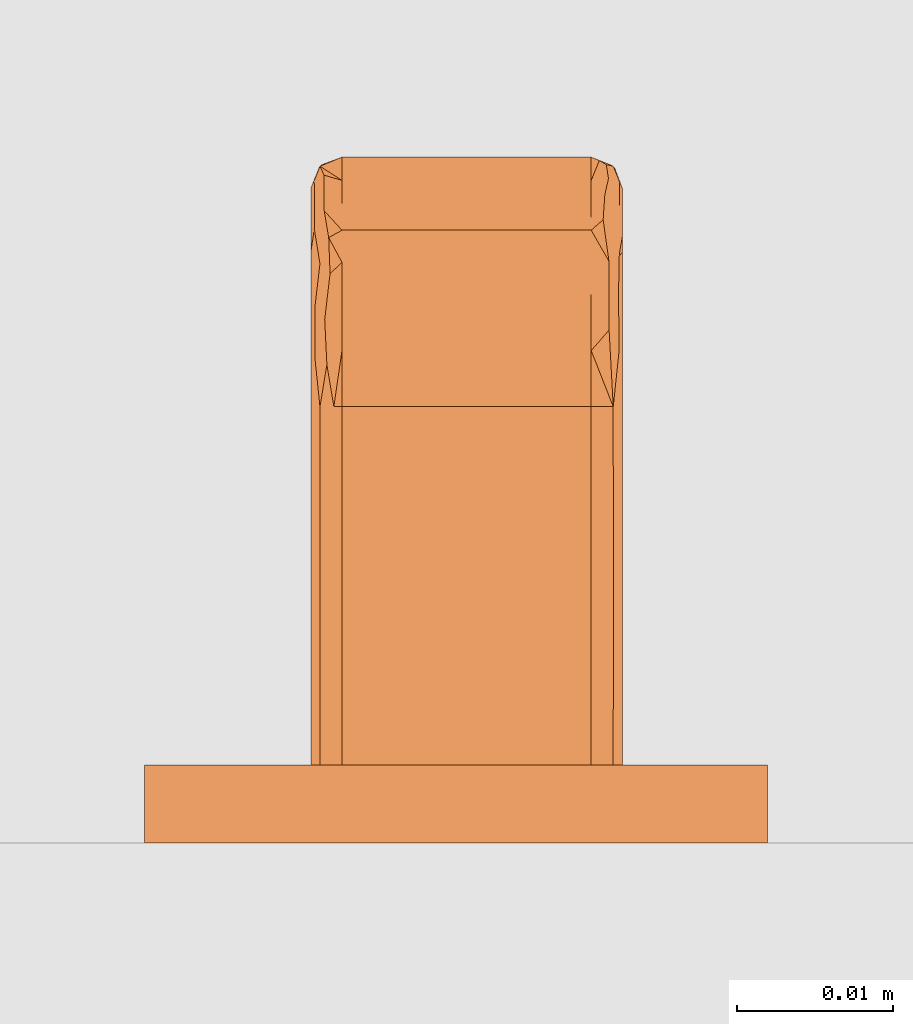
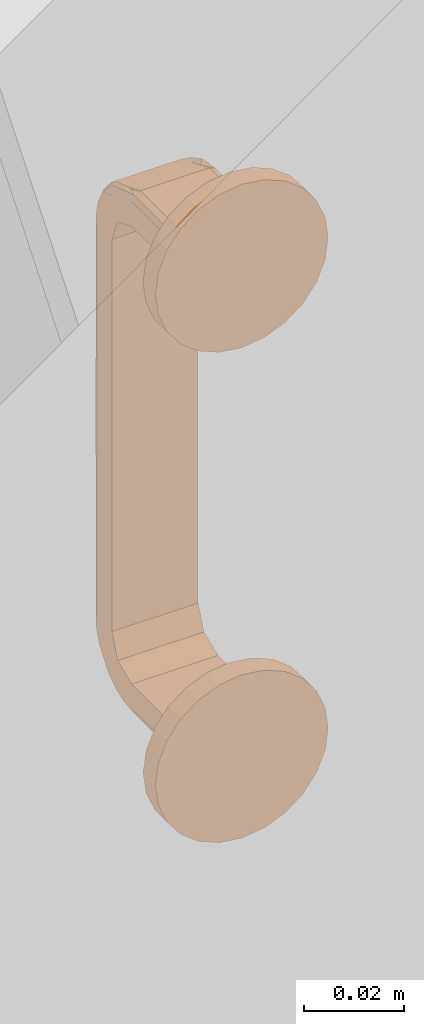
# One storey, part 43 of 67: 1 proxy.
"""IFC4 building model written with IfcOpenShell, lengths in millimetres."""

import ifcopenshell
import ifcopenshell.guid

model = None  # the IFC model being written
_history = None  # IfcOwnerHistory: only IFC2X3 demands one
_inside = {}  # id of a spatial element -> (the spatial element, [elements in it])
_under = {}  # id of a project, library or spatial element -> (it, [spatial elements below it])
_declared = {}  # id of a project -> (the project, [libraries it declares])
_typed = {}  # id of a type object -> (the type object, [elements of that type])
_made_of = {}  # id of a material, layer set ... -> (it, [elements and type objects made of it])


def new_model(schema):
    """Start an empty IFC model of exactly this schema.

    Asked for "IFC4X3", IfcOpenShell would pick the latest addendum, in which some entities
    have other attributes; the version numbers below select the first issue.
    IFC2X3 requires an IfcOwnerHistory on every rooted entity: one is made here for all.
    """
    global model, _history
    if schema == "IFC4X3":
        model = ifcopenshell.file(schema_version=(4, 3, 0, 0))
    else:
        model = ifcopenshell.file(schema=schema)
    _inside.clear()
    _under.clear()
    _declared.clear()
    _typed.clear()
    _made_of.clear()
    _history = None
    if model.schema == "IFC2X3":
        org = make("IfcOrganization", Name="unknown")
        user = make(
            "IfcPersonAndOrganization",
            ThePerson=make("IfcPerson", FamilyName="unknown"),
            TheOrganization=org,
        )
        app = make(
            "IfcApplication",
            ApplicationDeveloper=org,
            Version="unknown",
            ApplicationFullName="unknown",
            ApplicationIdentifier="unknown",
        )
        _history = make(
            "IfcOwnerHistory",
            OwningUser=user,
            OwningApplication=app,
            ChangeAction="ADDED",
            CreationDate=0,
        )
    return model


def make(cls, **values):
    """One entity of the class cls with the attributes given. An attribute that is None is left unset."""
    return model.create_entity(
        cls, **{name: value for name, value in values.items() if value is not None}
    )


def entity(cls, *values):
    """Any entity or typed value of the class cls, its attributes in the order of the schema. None: left unset."""
    e = model.create_entity(cls)
    for i, value in enumerate(values):
        if value is not None:
            e[i] = value
    return e


def rooted(cls, **values):
    """An entity with a GlobalId (a new one), such as an element, a storey or a relation."""
    return make(cls, GlobalId=ifcopenshell.guid.new(), OwnerHistory=_history, **values)


def si_unit(unit_type, name, prefix=None):
    """IfcSIUnit, for example si_unit("LENGTHUNIT", "METRE", prefix="MILLI")."""
    return make("IfcSIUnit", UnitType=unit_type, Prefix=prefix, Name=name)


def converted_unit(unit_type, name, factor, base, dimensions=None, offset=None):
    """IfcConversionBasedUnit, such as the inch: factor (a typed value) times the base unit."""
    return make(
        "IfcConversionBasedUnit"
        if offset is None
        else "IfcConversionBasedUnitWithOffset",
        ConversionOffset=offset,
        Dimensions=None
        if dimensions is None
        else entity("IfcDimensionalExponents", *dimensions),
        UnitType=unit_type,
        Name=name,
        ConversionFactor=make(
            "IfcMeasureWithUnit", ValueComponent=factor, UnitComponent=base
        ),
    )


def assignment(units):
    """IfcUnitAssignment: the units of a project."""
    return None if units is None else make("IfcUnitAssignment", Units=units)


def point(xyz):
    """IfcCartesianPoint."""
    return None if xyz is None else make("IfcCartesianPoint", Coordinates=xyz)


def direction(xyz):
    """IfcDirection."""
    return None if xyz is None else make("IfcDirection", DirectionRatios=xyz)


def frame(location, z_axis=None, x_axis=None):
    """IfcAxis2Placement3D, a coordinate frame: its origin and axes. An axis left out is left unset."""
    return make(
        "IfcAxis2Placement3D",
        Location=point(location),
        Axis=direction(z_axis),
        RefDirection=direction(x_axis),
    )


def origin():
    """The frame at (0, 0, 0) with its axes left unset."""
    return frame((0.0, 0.0, 0.0))


def place(relative_to, where):
    """IfcLocalPlacement: puts the frame where relative to a parent placement (None: the world)."""
    return make(
        "IfcLocalPlacement", PlacementRelTo=relative_to, RelativePlacement=where
    )


def context(
    kind, dimensions, precision=None, world=None, true_north=None, identifier=None
):
    """IfcGeometricRepresentationContext, for example the 3D "Model" context."""
    return make(
        "IfcGeometricRepresentationContext",
        ContextIdentifier=identifier,
        ContextType=kind,
        CoordinateSpaceDimension=dimensions,
        Precision=precision,
        WorldCoordinateSystem=world,
        TrueNorth=true_north,
    )


def subcontext(parent, identifier, kind, view, scale=None):
    """IfcGeometricRepresentationSubContext, for example "Body" below "Model"."""
    return make(
        "IfcGeometricRepresentationSubContext",
        ContextIdentifier=identifier,
        ContextType=kind,
        ParentContext=parent,
        TargetScale=scale,
        TargetView=view,
    )


def project(units=None, contexts=None):
    """IfcProject with its units and contexts."""
    return rooted(
        "IfcProject",
        Name="project",
        RepresentationContexts=contexts,
        UnitsInContext=assignment(units),
    )


def spatial(cls, under=None, at=None, **own):
    """A site, building, storey or space (cls), placed at a placement, below another one or the project."""
    s = rooted(cls, ObjectPlacement=at, **own)
    if under is not None:
        _under.setdefault(under.id(), (under, []))[1].append(s)
    return s


def point_list(points):
    """IfcCartesianPointList2D or 3D."""
    cls = (
        "IfcCartesianPointList2D" if len(points[0]) == 2 else "IfcCartesianPointList3D"
    )
    return make(cls, CoordList=points)


def polygons(points, faces, closed=None, point_numbers=None):
    """IfcPolygonalFaceSet: a face is its outer loop, then its inner loops; points numbered from 1."""
    made = []
    for loops in faces:
        if len(loops) == 1:
            made.append(make("IfcIndexedPolygonalFace", CoordIndex=loops[0]))
        else:
            made.append(
                make(
                    "IfcIndexedPolygonalFaceWithVoids",
                    CoordIndex=loops[0],
                    InnerCoordIndices=loops[1:],
                )
            )
    return make(
        "IfcPolygonalFaceSet",
        Coordinates=point_list(points),
        Closed=closed,
        Faces=made,
        PnIndex=point_numbers,
    )


def shape(context_of_items, identifier, shape_type, items):
    """IfcShapeRepresentation: the items that make up one representation, for example the "Body"."""
    return make(
        "IfcShapeRepresentation",
        ContextOfItems=context_of_items,
        RepresentationIdentifier=identifier,
        RepresentationType=shape_type,
        Items=items,
    )


def source(mapping_origin, context_of_items, identifier, shape_type, items):
    """IfcRepresentationMap: a shape defined once, which mapped items show again and again."""
    return make(
        "IfcRepresentationMap",
        MappingOrigin=mapping_origin,
        MappedRepresentation=shape(context_of_items, identifier, shape_type, items),
    )


def transform(
    local_origin,
    x_axis=None,
    y_axis=None,
    z_axis=None,
    scale=None,
    scale2=None,
    scale3=None,
    uniform=True,
):
    """IfcCartesianTransformationOperator3D, or its non-uniform kind. x_axis, y_axis, z_axis: its Axis1, 2, 3."""
    if uniform:
        return make(
            "IfcCartesianTransformationOperator3D",
            Axis1=direction(x_axis),
            Axis2=direction(y_axis),
            LocalOrigin=point(local_origin),
            Scale=scale,
            Axis3=direction(z_axis),
        )
    return make(
        "IfcCartesianTransformationOperator3DnonUniform",
        Axis1=direction(x_axis),
        Axis2=direction(y_axis),
        LocalOrigin=point(local_origin),
        Scale=scale,
        Axis3=direction(z_axis),
        Scale2=scale2,
        Scale3=scale3,
    )


def mapped(mapping_source, mapping_target):
    """IfcMappedItem: shows the shape of a source again, moved by a transform."""
    return make(
        "IfcMappedItem", MappingSource=mapping_source, MappingTarget=mapping_target
    )


def material(Name=None, Category=None):
    """IfcMaterial."""
    return make("IfcMaterial", Name=Name, Category=Category)


def made_of(thing, what):
    """Note that an element or type object is made of a material, layer set ...; save() writes the relation."""
    if what is not None:
        _made_of.setdefault(what.id(), (what, []))[1].append(thing)
    return thing


def type_object(cls, material=None, **own):
    """A type object (cls), such as IfcWallType, which elements share."""
    return made_of(rooted(cls, **own), material)


def type_shapes(of_type, sources):
    """Give a type object the sources (RepresentationMaps) that its elements show as mapped items."""
    of_type.RepresentationMaps = sources


def element(
    cls,
    number,
    at=None,
    inside=None,
    cuts=None,
    type_object=None,
    material=None,
    context=None,
    identifier="Body",
    shape_type=None,
    held_by="IfcProductDefinitionShape",
    body=None,
    shapes=None,
    **own,
):
    """One element of the class cls, such as IfcWall. Its Tag is "e" and its number.

    at: its placement. inside: the storey or other place that contains it. cuts: it is an
    opening in that element (IfcRelVoidsElement). A single representation is given by context,
    identifier, shape_type and body (its items); several are given by shapes. held_by: the class
    of the entity that holds the representations. save() writes the other relations.
    """
    e = rooted(cls, Tag="e%d" % number, ObjectPlacement=at, **own)
    if body is not None:
        shapes = [shape(context, identifier, shape_type, body)]
    if shapes is not None:
        e.Representation = make(held_by, Representations=shapes)
    if inside is not None:
        _inside.setdefault(inside.id(), (inside, []))[1].append(e)
    if cuts is not None:
        rooted(
            "IfcRelVoidsElement", RelatingBuildingElement=cuts, RelatedOpeningElement=e
        )
    if type_object is not None:
        _typed.setdefault(type_object.id(), (type_object, []))[1].append(e)
    return made_of(e, material)


def aggregate(whole, parts):
    """IfcRelAggregates: a whole, such as a stair, and the parts it consists of."""
    return rooted("IfcRelAggregates", RelatingObject=whole, RelatedObjects=parts)


def save(model, path):
    """Write the relations noted so far, then the file.

    IfcRelAggregates (storeys below a building ...), IfcRelContainedInSpatialStructure (elements
    in a storey), IfcRelDefinesByType, IfcRelAssociatesMaterial and IfcRelDeclares: one each for
    every whole, place, type object, material and project.
    """
    for whole, parts in _under.values():
        aggregate(whole, parts)
    for where, things in _inside.values():
        rooted(
            "IfcRelContainedInSpatialStructure",
            RelatedElements=things,
            RelatingStructure=where,
        )
    for kind, things in _typed.values():
        rooted("IfcRelDefinesByType", RelatedObjects=things, RelatingType=kind)
    for what, things in _made_of.values():
        rooted("IfcRelAssociatesMaterial", RelatedObjects=things, RelatingMaterial=what)
    for by, libraries in _declared.values():
        rooted("IfcRelDeclares", RelatingContext=by, RelatedDefinitions=libraries)
    model.write(path)


model = new_model("IFC4")

# Units and contexts
model_context = context("Model", 3, precision=0.01, world=origin(), true_north=direction((0.0, 1.0)))
body_context = subcontext(model_context, "Body", "Model", "MODEL_VIEW")
ifc_project = project(units=[si_unit("LENGTHUNIT", "METRE", prefix="MILLI"), si_unit("AREAUNIT", "SQUARE_METRE"), si_unit("VOLUMEUNIT", "CUBIC_METRE"), converted_unit("PLANEANGLEUNIT", "DEGREE", entity("IfcPlaneAngleMeasure", 0.017453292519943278), si_unit("PLANEANGLEUNIT", "RADIAN"), dimensions=[0, 0, 0, 0, 0, 0, 0])], contexts=[model_context])

# Site, building, storey, space
site_placement = place(None, origin())
site = spatial("IfcSite", under=ifc_project, at=site_placement, Name="Tomtens navn", CompositionType="ELEMENT")
building_placement = place(site_placement, origin())
building = spatial("IfcBuilding", under=site, at=building_placement, Name="Byggets navn", CompositionType="ELEMENT")
storey_placement = place(building_placement, origin())
storey = spatial("IfcBuildingStorey", under=building, at=storey_placement, Name="Level 01", CompositionType="ELEMENT", Elevation=2.1993652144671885e-25)
space_placement = place(storey_placement, origin())
space = spatial("IfcSpace", under=storey, at=space_placement, Name="102", CompositionType="ELEMENT", PredefinedType="NOTDEFINED")

# Proxy
ifc_material = material(Name="Handtag, vitt", Category="Unassigned")
building_element_proxy_type = type_object("IfcBuildingElementProxyType", Name="Handtag skåp1:Handtag skåp", PredefinedType="NOTDEFINED", material=ifc_material)
shared_shape = source(origin(), body_context, "Body", "Tessellation", [
    polygons([(8.670220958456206, 4.999999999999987, 4.021099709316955), (-7.329779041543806, 4.999999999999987, 4.021099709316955), (-8.743992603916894, 4.9999999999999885, 3.435313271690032), (-9.32977904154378, 4.999999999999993, 2.021099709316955), (-9.32977904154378, 5.0000000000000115, -4.0210997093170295), (10.67022095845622, 5.0000000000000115, -4.021099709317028), (10.67022095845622, 4.999999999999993, 2.0210997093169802), (10.084434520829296, 4.9999999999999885, 3.435313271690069), (10.67022095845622, 28.000000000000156, 2.0210997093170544), (10.084434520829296, 28.000000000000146, 3.435313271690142), (8.670220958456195, 28.000000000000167, 4.0210997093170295), (8.670220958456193, 15.654960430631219, 4.02109970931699), (10.67022095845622, 17.345040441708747, 2.02109970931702), (10.08659387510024, 16.21238630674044, 3.433150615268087), (10.67022095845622, 28.000000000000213, -4.021099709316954), (10.67022095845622, 33.64193450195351, -6.358065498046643), (10.67022095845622, 35.97890029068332, -11.999999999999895), (10.67022095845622, 35.97890029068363, -107.99999999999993), (10.67022095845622, 33.641934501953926, -113.64193450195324), (10.67022095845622, 28.000000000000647, -115.97890029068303), (10.67022095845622, 4.999999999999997, -115.97890029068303), (10.67022095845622, 4.999999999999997, -122.02109970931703), (10.67022095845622, 28.000000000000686, -122.02109970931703), (10.67022095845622, 37.914414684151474, -117.91441468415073), (10.67022095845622, 42.02109970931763, -107.99999999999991), (10.67022095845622, 42.0210997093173, -11.999999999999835), (10.67022095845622, 37.914414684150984, -2.085585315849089), (-9.32977904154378, 28.000000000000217, -4.021099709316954), (-9.32977904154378, 28.000000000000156, 2.02109970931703), (-9.32977904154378, 37.91441468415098, -2.085585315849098), (-9.32977904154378, 42.02109970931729, -11.999999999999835), (-9.32977904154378, 42.02109970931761, -107.99999999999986), (-9.32977904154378, 37.91441468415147, -117.91441468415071), (-9.32977904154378, 28.00000000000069, -122.02109970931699), (-9.32977904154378, 4.999999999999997, -122.021099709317), (-9.32977904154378, 4.999999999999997, -115.978900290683), (-9.32977904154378, 28.000000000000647, -115.97890029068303), (-9.32977904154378, 33.641934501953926, -113.64193450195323), (-9.32977904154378, 35.97890029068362, -107.99999999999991), (-9.32977904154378, 35.978900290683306, -11.999999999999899), (-9.32977904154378, 33.64193450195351, -6.358065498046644), (-7.329779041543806, 28.00000000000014, 4.0210997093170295), (-8.743992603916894, 28.000000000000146, 3.435313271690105), (-9.32977904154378, 15.654959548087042, 2.021099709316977), (-7.3297790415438, 17.34503999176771, 4.021099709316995), (-8.741829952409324, 16.21238644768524, 3.43747262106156), (10.084434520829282, 43.43531327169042, -11.999999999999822), (8.670220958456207, 44.021099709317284, -11.999999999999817), (8.670220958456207, 39.328628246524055, -0.6713717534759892), (10.67022095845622, 31.60126528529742, 0.5294067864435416), (8.670220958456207, 41.03771385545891, -4.797469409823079), (10.084434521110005, 40.40873190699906, -2.8200071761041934), (8.670220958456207, 35.20253058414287, 1.0377138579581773), (9.809043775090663, 37.34144424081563, 0.5752165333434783), (9.818751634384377, 32.92350079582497, 2.8642465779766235), (10.67022095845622, 39.96775719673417, -7.042792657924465), (10.377327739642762, 28.000000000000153, 2.7282064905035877), (8.670220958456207, 42.529406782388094, -8.398734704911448), (9.779150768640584, 42.65191997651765, -6.400304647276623), (10.431420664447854, 34.75591670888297, 1.357514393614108), (10.447049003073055, 37.64140257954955, -0.5884869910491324), (10.67022095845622, 34.7578399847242, -0.7780892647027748), (10.453824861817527, 31.52927433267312, 2.5026982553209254), (8.670220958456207, 31.601265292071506, 2.5294067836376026), (8.670220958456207, 40.18317105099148, -2.734420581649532), (9.435587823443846, 40.00295364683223, -1.6197407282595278), (9.543801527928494, 41.59747716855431, -3.9137042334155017), (10.67022095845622, 38.941085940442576, -4.564188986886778), (10.50224699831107, 40.95405539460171, -4.794062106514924), (10.477567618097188, 42.45420227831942, -8.47617064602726), (9.193272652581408, 43.80444460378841, -11.999999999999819), (9.638611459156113, 43.538770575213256, -9.303396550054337), (10.67022095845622, 40.99442845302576, -9.521396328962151), (-7.329779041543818, 44.021099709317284, -11.999999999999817), (-8.743992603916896, 43.43531327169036, -11.999999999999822), (-7.329779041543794, 39.328628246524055, -0.6713717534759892), (-7.329779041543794, 35.20253057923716, 1.0377138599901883), (-8.743992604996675, 37.179992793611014, 0.40873192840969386), (-9.32977904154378, 40.52940677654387, -8.398734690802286), (-7.329779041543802, 41.03771385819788, -4.797469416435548), (-8.468601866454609, 40.57521654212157, -2.6585557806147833), (-8.47830971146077, 42.864246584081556, -7.076499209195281), (-9.32977904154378, 32.95720734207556, -0.03224280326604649), (-9.036885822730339, 42.728206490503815, -11.999999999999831), (-7.329779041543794, 31.601265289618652, 2.529406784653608), (-8.43870885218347, 33.59969531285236, 2.6519199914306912), (-9.090978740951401, 41.357514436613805, -5.244083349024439), (-9.106607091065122, 39.41151304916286, -2.358597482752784), (-9.32977904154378, 39.22191073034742, -5.242160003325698), (-9.113382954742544, 42.502698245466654, -8.470725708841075), (-7.32977904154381, 42.52940678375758, -8.398734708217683), (-7.329779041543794, 37.26557941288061, 0.18317105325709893), (-8.095145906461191, 36.54048464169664, 1.37463273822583), (-8.18279176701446, 38.85536792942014, -0.47819170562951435), (-9.32977904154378, 35.43581101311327, -1.0589140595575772), (-7.852830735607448, 28.00000000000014, 3.8044446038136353), (-8.29816953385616, 30.69660343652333, 3.5387705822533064), (-9.060718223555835, 31.048754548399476, 2.7104148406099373), (-9.074370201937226, 34.340507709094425, 1.5930015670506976), (-9.32977904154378, 30.478603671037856, 0.9944284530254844), (-7.32977904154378, 33.664314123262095, 1.6748639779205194), (8.670220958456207, 33.664314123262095, 1.6748639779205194), (8.670220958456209, 30.748770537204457, 2.882521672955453), (-7.32977904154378, 41.67486397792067, -6.335685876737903), (8.670220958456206, 41.67486397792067, -6.335685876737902), (8.670220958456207, 40.50174611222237, -3.503528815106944), (-7.32977904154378, 36.496471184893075, 0.5017461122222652), (8.670220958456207, 36.496471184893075, 0.5017461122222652), (-7.32977904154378, 30.83215706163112, 2.847981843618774), (8.670220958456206, 42.882521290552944, -9.251228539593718), (-7.32977904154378, 42.84798184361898, -9.167842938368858), (-7.32977904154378, 40.50174611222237, -3.503528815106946), (10.084434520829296, 43.435313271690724, -107.99999999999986), (8.670220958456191, 44.0210997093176, -107.99999999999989), (10.67022095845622, 42.02109970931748, -61.380159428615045), (8.670220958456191, 44.021099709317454, -60.0000005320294), (8.670220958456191, 44.02109970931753, -83.30992070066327), (10.67022095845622, 42.021099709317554, -84.69007971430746), (8.670220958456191, 44.021099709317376, -36.690079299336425), (10.67022095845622, 42.02109970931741, -36.690079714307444), (10.67022095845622, 42.021099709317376, -24.34503985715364), (8.670220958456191, 44.02109970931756, -95.65496088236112), (8.670220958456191, 44.02109970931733, -24.34504018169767), (10.67022095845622, 42.021099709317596, -95.65496014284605), (10.084434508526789, 43.43531328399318, -90.17251993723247), (10.67022095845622, 42.02109970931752, -73.035119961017), (10.043884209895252, 43.4747328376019, -67.20763959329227), (10.084434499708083, 43.435313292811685, -30.517560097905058), (10.084434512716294, 43.435313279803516, -43.72292802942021), (10.67022095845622, 42.021099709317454, -49.03511957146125), (10.049878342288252, 43.469044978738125, -55.46284370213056), (8.67022095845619, 44.02109970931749, -71.65496114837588), (10.18815291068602, 43.32336027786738, -78.66752152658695), (8.670220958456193, 44.02109970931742, -48.34503991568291), (-7.329779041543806, 44.0210997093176, -107.99999999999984), (-8.743992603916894, 43.43531327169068, -107.99999999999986), (-7.3297790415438, 44.021099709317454, -61.38015981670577), (-9.32977904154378, 42.021099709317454, -59.999999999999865), (-9.32977904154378, 42.02109970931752, -83.30992051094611), (-7.329779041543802, 44.02109970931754, -84.69008022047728), (-9.32977904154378, 42.02109970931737, -36.69007991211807), (-7.329779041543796, 44.021099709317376, -36.69007990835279), (-7.329779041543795, 44.02109970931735, -24.345039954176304), (-9.32977904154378, 42.02109970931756, -95.65496025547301), (-9.32977904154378, 42.02109970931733, -24.345040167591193), (-7.329779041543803, 44.021099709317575, -95.65496067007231), (-8.743992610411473, 43.43531326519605, -90.17252002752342), (-7.3297790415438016, 44.0210997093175, -73.03512001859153), (-8.783412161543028, 43.39476296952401, -67.2076399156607), (-8.743992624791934, 43.4353132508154, -30.517560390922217), (-8.74399260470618, 43.43531327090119, -43.72292838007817), (-7.329779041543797, 44.02109970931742, -49.03511986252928), (-8.777724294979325, 43.40075710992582, -55.46284405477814), (-9.32977904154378, 42.02109970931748, -71.65496025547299), (-8.632039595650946, 43.53903167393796, -78.6675217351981), (-9.32977904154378, 42.02109970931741, -48.345039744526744), (10.08443452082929, 28.0000000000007, -123.43531327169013), (8.670220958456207, 28.000000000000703, -124.02109970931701), (8.670220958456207, 39.32862824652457, -119.32862824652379), (10.67022095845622, 40.52940678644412, -111.60126528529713), (8.670220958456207, 35.202530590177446, -121.03771385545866), (10.084434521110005, 37.179992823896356, -120.4087319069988), (8.670220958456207, 41.03771385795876, -115.20253058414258), (9.809043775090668, 40.575216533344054, -117.34144424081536), (9.818751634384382, 42.864246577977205, -112.9235007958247), (10.67022095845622, 32.95720734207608, -119.96775719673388), (10.377327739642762, 42.728206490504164, -107.99999999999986), (8.670220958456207, 31.601265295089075, -122.52940678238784), (9.779150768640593, 33.5996953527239, -122.65191997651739), (10.431420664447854, 41.357514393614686, -114.7559167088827), (10.447049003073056, 39.41151300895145, -117.64140257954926), (10.67022095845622, 39.2219107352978, -114.75783998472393), (10.453824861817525, 42.50269825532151, -111.52927433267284), (8.670220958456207, 42.52940678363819, -111.60126529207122), (8.670220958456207, 37.26557941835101, -120.18317105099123), (9.43558782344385, 38.38025927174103, -120.00295364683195), (9.543801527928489, 36.08629576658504, -121.59747716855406), (10.67022095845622, 35.435811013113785, -118.9410859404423), (10.50224699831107, 35.20593789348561, -120.95405539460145), (10.477567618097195, 31.523829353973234, -122.45420227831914), (9.193272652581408, 28.000000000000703, -123.80444460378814), (9.638611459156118, 30.696603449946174, -123.538770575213), (10.67022095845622, 30.47860367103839, -120.99442845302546), (-7.329779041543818, 28.000000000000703, -124.02109970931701), (-8.743992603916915, 28.0000000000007, -123.43531327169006), (-7.329779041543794, 39.32862824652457, -119.32862824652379), (-7.329779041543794, 41.03771385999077, -115.20253057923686), (-8.743992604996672, 40.40873192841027, -117.17999279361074), (-9.32977904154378, 31.601265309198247, -120.52940677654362), (-7.329779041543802, 35.20253058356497, -121.03771385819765), (-8.468601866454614, 37.34144421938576, -120.57521654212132), (-8.478309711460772, 32.92350079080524, -122.8642465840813), (-9.32977904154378, 39.967757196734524, -112.95720734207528), (-9.036885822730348, 28.000000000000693, -122.72820649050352), (-7.329779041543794, 42.529406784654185, -111.60126528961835), (-8.438708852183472, 42.65191999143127, -113.59969531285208), (-9.090978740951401, 34.75591665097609, -121.35751443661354), (-9.106607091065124, 37.64140251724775, -119.41151304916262), (-9.32977904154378, 34.75783999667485, -119.22191073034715), (-9.113382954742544, 31.529274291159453, -122.50269824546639), (-7.329779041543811, 31.601265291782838, -122.52940678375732), (-7.329779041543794, 40.18317105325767, -117.26557941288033), (-8.095145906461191, 41.37463273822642, -116.54048464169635), (-8.182791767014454, 39.52180829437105, -118.85536792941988), (-9.32977904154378, 38.941085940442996, -115.435811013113), (-7.852830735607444, 43.804444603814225, -107.99999999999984), (-8.298169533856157, 43.53877058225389, -110.69660343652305), (-9.060718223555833, 42.710414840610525, -111.04875454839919), (-9.074370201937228, 41.59300156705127, -114.34050770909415), (-9.32977904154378, 40.99442845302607, -110.47860367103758), (-7.32977904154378, 41.6748639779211, -113.66431412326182), (8.670220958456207, 41.6748639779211, -113.66431412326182), (8.670220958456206, 42.88252167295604, -110.74877053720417), (-7.32977904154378, 33.66431412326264, -121.67486397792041), (8.670220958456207, 33.66431412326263, -121.67486397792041), (8.670220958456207, 36.4964711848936, -120.50174611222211), (-7.32977904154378, 40.50174611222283, -116.4964711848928), (8.670220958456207, 40.50174611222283, -116.4964711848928), (-7.32977904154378, 42.84798184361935, -110.83215706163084), (8.670220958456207, 30.748771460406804, -122.88252129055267), (-7.329779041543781, 30.83215706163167, -122.84798184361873), (-7.32977904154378, 36.49647118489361, -120.50174611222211), (8.670220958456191, 4.99999999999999, -124.021099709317), (10.084434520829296, 4.99999999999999, -123.43531327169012), (-8.743992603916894, 4.99999999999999, -123.43531327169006), (-7.32977904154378, 4.99999999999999, -124.02109970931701), (8.670220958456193, 17.34504139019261, -124.021099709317), (10.67022095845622, 15.65496022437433, -122.02109970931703), (10.08659387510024, 16.787613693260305, -123.43315061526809), (-9.32977904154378, 17.34504010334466, -122.02109970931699), (-7.3297790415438, 15.6549594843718, -124.021099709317), (-8.741829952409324, 16.787613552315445, -123.43747262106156)], [[[4, 5, 6, 7, 8, 1, 2, 3]], [[18, 17, 40, 39]], [[226, 223, 224, 22, 21, 36, 35, 225]], [[13, 9, 57, 10]], [[14, 13, 10]], [[11, 12, 14]], [[1, 8, 12]], [[12, 8, 14]], [[13, 14, 7]], [[14, 8, 7]], [[14, 10, 11]], [[6, 15, 16, 17, 18, 19, 20, 21, 22, 228, 23, 183, 166, 178, 24, 172, 160, 25, 124, 118, 126, 115, 130, 120, 121, 26, 73, 56, 68, 27, 62, 50, 9, 13, 7]], [[15, 6, 5, 28]], [[158, 227, 223, 226, 231, 184]], [[36, 37, 38, 39, 40, 41, 28, 5, 4, 44, 29, 100, 83, 95, 30, 89, 79, 31, 145, 141, 156, 138, 154, 139, 144, 32, 210, 193, 205, 33, 199, 189, 34, 230, 35]], [[45, 42, 96, 43]], [[46, 45, 43]], [[29, 44, 46]], [[4, 3, 44]], [[44, 3, 46]], [[45, 46, 2]], [[46, 3, 2]], [[46, 43, 29]], [[2, 1, 12, 11, 42, 45]], [[21, 20, 37, 36]], [[60, 62, 61]], [[68, 56, 69]], [[66, 65, 49]], [[55, 54, 53]], [[59, 58, 105, 51]], [[67, 51, 106, 65]], [[69, 56, 70]], [[50, 60, 63]], [[55, 64, 10]], [[59, 67, 52]], [[54, 49, 108, 53]], [[72, 71, 58]], [[54, 55, 60]], [[69, 61, 68]], [[66, 52, 67]], [[68, 61, 27]], [[55, 10, 63]], [[63, 10, 57, 9]], [[71, 48, 110, 58]], [[70, 26, 47]], [[54, 60, 61]], [[63, 9, 50]], [[54, 61, 52]], [[27, 61, 62]], [[60, 50, 62]], [[63, 60, 55]], [[10, 64, 103, 11]], [[55, 53, 102, 64]], [[66, 54, 52]], [[66, 49, 54]], [[66, 67, 65]], [[67, 59, 51]], [[69, 52, 61]], [[69, 59, 52]], [[59, 69, 70]], [[70, 72, 59]], [[73, 26, 70, 56]], [[47, 71, 72]], [[47, 72, 70]], [[59, 72, 58]], [[15, 28, 41, 16]], [[41, 40, 17, 16]], [[96, 42, 109, 85]], [[79, 87, 90]], [[86, 85, 101, 77]], [[86, 99, 98]], [[93, 77, 107, 92]], [[81, 82, 87]], [[80, 82, 81]], [[78, 95, 99]], [[87, 89, 88]], [[78, 99, 86]], [[93, 94, 78]], [[82, 91, 75]], [[81, 76, 112, 80]], [[94, 93, 92]], [[88, 78, 94]], [[95, 88, 30]], [[82, 75, 90]], [[90, 75, 84, 31]], [[43, 97, 98]], [[86, 98, 97]], [[81, 87, 88]], [[90, 31, 79]], [[94, 81, 88]], [[30, 88, 89]], [[87, 79, 89]], [[90, 87, 82]], [[75, 91, 111, 74]], [[82, 80, 104, 91]], [[93, 86, 77]], [[93, 78, 86]], [[94, 76, 81]], [[76, 94, 92]], [[78, 88, 95]], [[43, 96, 97]], [[97, 96, 85]], [[86, 97, 85]], [[98, 29, 43]], [[99, 95, 83, 100]], [[100, 98, 99]], [[100, 29, 98]], [[42, 11, 103, 64, 102, 53, 108, 49, 76, 92, 107, 77, 101, 85, 109]], [[105, 58, 110, 48, 74, 111, 91, 104, 80, 112, 76, 49, 65, 106, 51]], [[47, 26, 121, 120, 130, 129, 128]], [[124, 25, 167, 113, 125, 118]], [[118, 133, 126]], [[127, 115, 126]], [[123, 48, 71, 47, 128, 129, 134, 119]], [[113, 114, 122, 117, 125]], [[129, 130, 131]], [[115, 131, 130]], [[133, 127, 126]], [[132, 116, 127]], [[125, 117, 133]], [[116, 134, 131]], [[127, 116, 131]], [[127, 131, 115]], [[134, 129, 131]], [[132, 127, 133]], [[117, 132, 133]], [[125, 133, 118]], [[75, 74, 143, 142, 152, 151, 150]], [[146, 135, 206, 136, 147, 140]], [[140, 155, 148]], [[149, 137, 148]], [[145, 31, 84, 75, 150, 151, 156, 141]], [[136, 32, 144, 139, 147]], [[151, 152, 153]], [[137, 153, 152]], [[155, 149, 148]], [[154, 138, 149]], [[147, 139, 155]], [[138, 156, 153]], [[149, 138, 153]], [[149, 153, 137]], [[156, 151, 153]], [[154, 149, 155]], [[139, 154, 155]], [[147, 155, 140]], [[74, 48, 123, 119, 134, 116, 132, 117, 122, 114, 135, 146, 140, 148, 137, 152, 142, 143]], [[170, 172, 171]], [[178, 166, 179]], [[176, 175, 159]], [[165, 164, 163]], [[169, 168, 215, 161]], [[177, 161, 216, 175]], [[179, 166, 180]], [[160, 170, 173]], [[165, 174, 113]], [[169, 177, 162]], [[164, 159, 218, 163]], [[182, 181, 168]], [[164, 165, 170]], [[179, 171, 178]], [[176, 162, 177]], [[178, 171, 24]], [[165, 113, 173]], [[173, 113, 167, 25]], [[181, 158, 220, 168]], [[180, 23, 157]], [[164, 170, 171]], [[173, 25, 160]], [[164, 171, 162]], [[24, 171, 172]], [[170, 160, 172]], [[173, 170, 165]], [[113, 174, 213, 114]], [[165, 163, 212, 174]], [[176, 164, 162]], [[176, 159, 164]], [[176, 177, 175]], [[177, 169, 161]], [[179, 162, 171]], [[179, 169, 162]], [[169, 179, 180]], [[180, 182, 169]], [[183, 23, 180, 166]], [[157, 181, 182]], [[157, 182, 180]], [[169, 182, 168]], [[18, 39, 38, 19]], [[38, 37, 20, 19]], [[206, 135, 219, 195]], [[189, 197, 200]], [[196, 195, 211, 187]], [[196, 209, 208]], [[203, 187, 217, 202]], [[191, 192, 197]], [[190, 192, 191]], [[188, 205, 209]], [[197, 199, 198]], [[188, 209, 196]], [[203, 204, 188]], [[192, 201, 185]], [[191, 186, 222, 190]], [[204, 203, 202]], [[188, 196, 203]], [[205, 198, 33]], [[192, 185, 200]], [[200, 185, 194, 34]], [[136, 207, 208]], [[196, 208, 207]], [[191, 197, 198]], [[200, 34, 189]], [[204, 191, 198]], [[33, 198, 199]], [[197, 189, 199]], [[200, 197, 192]], [[185, 201, 221, 184]], [[192, 190, 214, 201]], [[187, 203, 196]], [[188, 204, 198]], [[204, 186, 191]], [[186, 204, 202]], [[188, 198, 205]], [[136, 206, 207]], [[207, 206, 195]], [[196, 207, 195]], [[208, 32, 136]], [[209, 205, 193, 210]], [[210, 208, 209]], [[210, 32, 208]], [[135, 114, 213, 174, 212, 163, 218, 159, 186, 202, 217, 187, 211, 195, 219]], [[215, 168, 220, 158, 184, 221, 201, 214, 190, 222, 186, 159, 175, 216, 161]], [[22, 224, 228]], [[229, 228, 224]], [[223, 227, 229]], [[227, 158, 181, 157]], [[227, 157, 229]], [[228, 229, 23]], [[229, 157, 23]], [[229, 224, 223]], [[226, 225, 231]], [[232, 231, 225]], [[35, 230, 232]], [[230, 34, 194, 185]], [[230, 185, 232]], [[231, 232, 184]], [[232, 185, 184]], [[232, 225, 35]]], closed=True),
    polygons([(-20.00000000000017, 4.999999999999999, 4.9806020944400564e-15), (-19.318516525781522, 4.999999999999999, 5.176380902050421), (-17.320508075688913, 4.999999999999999, 9.999999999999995), (-14.142135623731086, 4.999999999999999, 14.142135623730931), (-10.000000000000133, 4.999999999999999, 17.320508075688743), (-5.176380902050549, 4.999999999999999, 19.318516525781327), (-1.3958834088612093e-13, 4.999999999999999, 19.99999999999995), (5.176380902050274, 4.999999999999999, 19.31851652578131), (9.99999999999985, 4.999999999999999, 17.32050807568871), (14.142135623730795, 4.999999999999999, 14.142135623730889), (17.32050807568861, 4.999999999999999, 9.999999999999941), (19.3185165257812, 4.999999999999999, 5.17638090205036), (19.999999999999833, 4.999999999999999, -1.622393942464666e-13), (19.318516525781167, 4.999999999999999, -5.176380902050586), (17.320508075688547, 4.999999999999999, -10.000000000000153), (14.142135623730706, 4.999999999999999, -14.142135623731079), (9.999999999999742, 4.999999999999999, -17.320508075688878), (5.176380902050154, 4.999999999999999, -19.31851652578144), (-2.580269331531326e-13, 4.999999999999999, -20.00000000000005), (-5.176380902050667, 4.999999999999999, -19.318516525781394), (-10.000000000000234, 4.999999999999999, -17.320508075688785), (-14.14213562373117, 4.999999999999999, -14.142135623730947), (-17.320508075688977, 4.999999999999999, -9.999999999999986), (-19.318516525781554, 4.999999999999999, -5.176380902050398), (-20.00000000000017, 0.0, 1.386238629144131e-14), (-19.318516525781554, 0.0, -5.176380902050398), (-17.320508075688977, 0.0, -9.999999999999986), (-14.14213562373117, 0.0, -14.142135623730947), (-10.000000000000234, 0.0, -17.320508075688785), (-5.176380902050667, 0.0, -19.318516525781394), (-2.580269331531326e-13, 0.0, -20.00000000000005), (5.176380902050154, 0.0, -19.31851652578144), (9.999999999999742, 0.0, -17.320508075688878), (14.142135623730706, 0.0, -14.142135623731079), (17.320508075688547, 0.0, -10.000000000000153), (19.318516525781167, 0.0, -5.176380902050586), (19.999999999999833, 0.0, -5.075939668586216e-14), (19.3185165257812, 0.0, 5.17638090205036), (17.32050807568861, 0.0, 9.999999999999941), (14.142135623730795, 0.0, 14.142135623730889), (9.99999999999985, 0.0, 17.32050807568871), (5.176380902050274, 0.0, 19.31851652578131), (-1.3958834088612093e-13, 0.0, 19.99999999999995), (-5.176380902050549, 0.0, 19.318516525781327), (-10.000000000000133, 0.0, 17.320508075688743), (-14.142135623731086, 0.0, 14.142135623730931), (-17.320508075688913, 0.0, 9.999999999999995), (-19.318516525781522, 0.0, 5.176380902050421)], [[[16, 17, 18, 19, 20, 21, 22, 23, 24, 1, 2, 3, 4, 5, 6, 7, 8, 9, 10, 11, 12, 13, 14, 15]], [[41, 42, 43, 44, 45, 46, 47, 48, 25, 26, 27, 28, 29, 30, 31, 32, 33, 34, 35, 36, 37, 38, 39, 40]], [[25, 1, 24, 26]], [[26, 24, 23, 27]], [[29, 28, 22, 21]], [[22, 28, 27, 23]], [[30, 29, 21, 20]], [[30, 20, 19, 31]], [[31, 19, 18, 32]], [[32, 18, 17, 33]], [[35, 34, 16, 15]], [[16, 34, 33, 17]], [[36, 35, 15, 14]], [[36, 14, 13, 37]], [[37, 13, 12, 38]], [[38, 12, 11, 39]], [[41, 40, 10, 9]], [[10, 40, 39, 11]], [[42, 41, 9, 8]], [[42, 8, 7, 43]], [[43, 7, 6, 44]], [[44, 6, 5, 45]], [[47, 46, 4, 3]], [[4, 46, 45, 5]], [[48, 47, 3, 2]], [[48, 2, 1, 25]]], closed=True),
    polygons([(-20.000000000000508, 4.999999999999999, -120.00000000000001), (-19.31851652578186, 4.999999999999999, -114.82361909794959), (-17.320508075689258, 4.999999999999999, -110.00000000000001), (-14.142135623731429, 4.999999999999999, -105.85786437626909), (-10.000000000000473, 4.999999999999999, -102.67949192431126), (-5.176380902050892, 4.999999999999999, -100.68148347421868), (-4.779843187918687e-13, 4.999999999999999, -100.00000000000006), (5.176380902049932, 4.999999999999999, -100.6814834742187), (9.99999999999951, 4.999999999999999, -102.6794919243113), (14.142135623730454, 4.999999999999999, -105.85786437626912), (17.32050807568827, 4.999999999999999, -110.00000000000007), (19.31851652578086, 4.999999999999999, -114.82361909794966), (19.999999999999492, 4.999999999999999, -120.00000000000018), (19.318516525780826, 4.999999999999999, -125.1763809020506), (17.320508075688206, 4.999999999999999, -130.00000000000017), (14.142135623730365, 4.999999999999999, -134.1421356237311), (9.999999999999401, 4.999999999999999, -137.3205080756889), (5.176380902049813, 4.999999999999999, -139.31851652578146), (-6.006528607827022e-13, 4.999999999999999, -140.00000000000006), (-5.176380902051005, 4.999999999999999, -139.3185165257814), (-10.000000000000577, 4.999999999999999, -137.3205080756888), (-14.142135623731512, 4.999999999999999, -134.14213562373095), (-17.32050807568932, 4.999999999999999, -130.0), (-19.31851652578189, 4.999999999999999, -125.17638090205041), (-20.000000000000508, 0.0, -120.0), (-19.31851652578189, 0.0, -125.17638090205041), (-17.32050807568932, 0.0, -130.0), (-14.142135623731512, 0.0, -134.14213562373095), (-10.000000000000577, 0.0, -137.3205080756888), (-5.176380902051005, 0.0, -139.3185165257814), (-6.006528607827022e-13, 0.0, -140.00000000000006), (5.176380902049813, 0.0, -139.31851652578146), (9.999999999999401, 0.0, -137.3205080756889), (14.142135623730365, 0.0, -134.1421356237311), (17.320508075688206, 0.0, -130.00000000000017), (19.318516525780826, 0.0, -125.1763809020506), (19.999999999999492, 0.0, -120.00000000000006), (19.31851652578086, 0.0, -114.82361909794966), (17.32050807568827, 0.0, -110.00000000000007), (14.142135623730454, 0.0, -105.85786437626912), (9.99999999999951, 0.0, -102.6794919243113), (5.176380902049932, 0.0, -100.6814834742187), (-4.779843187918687e-13, 0.0, -100.00000000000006), (-5.176380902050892, 0.0, -100.68148347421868), (-10.000000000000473, 0.0, -102.67949192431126), (-14.142135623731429, 0.0, -105.85786437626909), (-17.320508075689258, 0.0, -110.00000000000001), (-19.31851652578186, 0.0, -114.82361909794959)], [[[17, 18, 19, 20, 21, 22, 23, 24, 1, 2, 3, 4, 5, 6, 7, 8, 9, 10, 11, 12, 13, 14, 15, 16]], [[41, 42, 43, 44, 45, 46, 47, 48, 25, 26, 27, 28, 29, 30, 31, 32, 33, 34, 35, 36, 37, 38, 39, 40]], [[25, 1, 24, 26]], [[26, 24, 23, 27]], [[29, 28, 22, 21]], [[22, 28, 27, 23]], [[30, 29, 21, 20]], [[30, 20, 19, 31]], [[31, 19, 18, 32]], [[32, 18, 17, 33]], [[35, 34, 16, 15]], [[16, 34, 33, 17]], [[36, 35, 15, 14]], [[36, 14, 13, 37]], [[37, 13, 12, 38]], [[38, 12, 11, 39]], [[41, 40, 10, 9]], [[10, 40, 39, 11]], [[42, 41, 9, 8]], [[42, 8, 7, 43]], [[43, 7, 6, 44]], [[44, 6, 5, 45]], [[47, 46, 4, 3]], [[4, 46, 45, 5]], [[48, 47, 3, 2]], [[48, 2, 1, 25]]], closed=True),
])
type_shapes(building_element_proxy_type, [shared_shape])
proxy_placement = place(space_placement, frame((66171.85352810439, 18543.46645692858, 1120.0)))
element("IfcBuildingElementProxy", 1, at=proxy_placement, inside=space, type_object=building_element_proxy_type, material=ifc_material, Name="Handtag skåp1:Handtag skåp", PredefinedType="NOTDEFINED", context=body_context, shape_type="MappedRepresentation", body=[
    mapped(shared_shape, transform((0.0, 0.0, 0.0), scale=1.0)),
])

save(model, "model.ifc")
